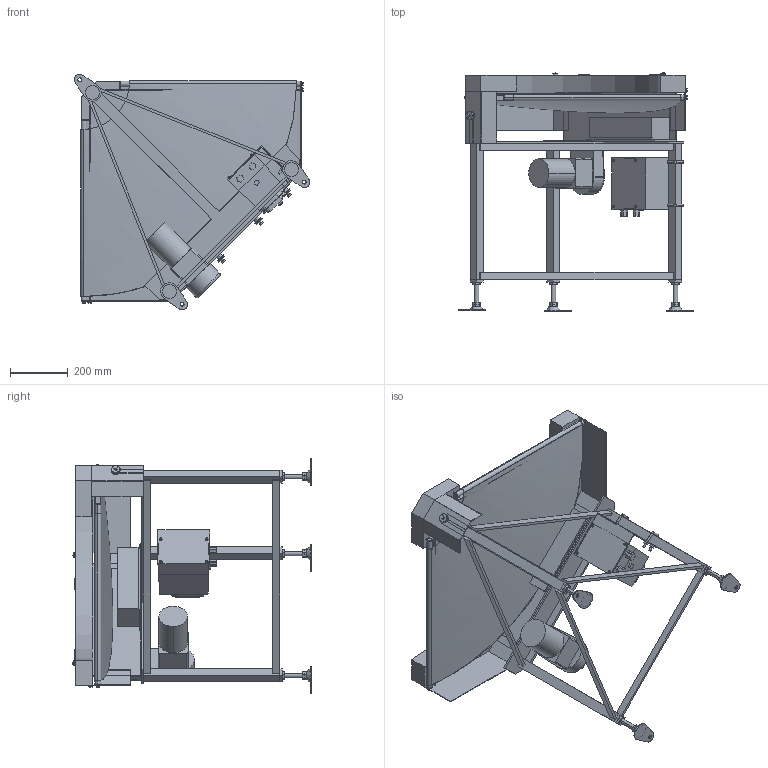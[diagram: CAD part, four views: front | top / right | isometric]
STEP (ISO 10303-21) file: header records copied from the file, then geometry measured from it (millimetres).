
FILE_DESCRIPTION (( 'STEP AP214' ), '1' );
FILE_NAME ('GFBC90-UD500-L.STEP', '2024-01-18T03:59:57', ( '' ), ( '' ), 'SwSTEP 2.0', 'SolidWorks 2017', '' );
FILE_SCHEMA (( 'AUTOMOTIVE_DESIGN' ));
Length unit declared in the file: millimetre
Products named in the file (1): GFBC90-UD500-L
Bounding box: 818.17 x 827.92 x 818.17 mm (x, y, z)
Volume: 24344009 mm3; surface area: 4997881.9 mm2
Topology: 53 solids, 54 shells, 1115 faces, 2601 edges, 1670 vertices
Faces by surface type: plane 694, cylinder 316, cone 53, bspline 40, torus 8, sphere 4
Entity records: 38908 total; most frequent: CARTESIAN_POINT 12747, DIRECTION 5258, ORIENTED_EDGE 5170, EDGE_CURVE 2585, AXIS2_PLACEMENT_3D 1798, VERTEX_POINT 1670, VECTOR 1662, LINE 1662
